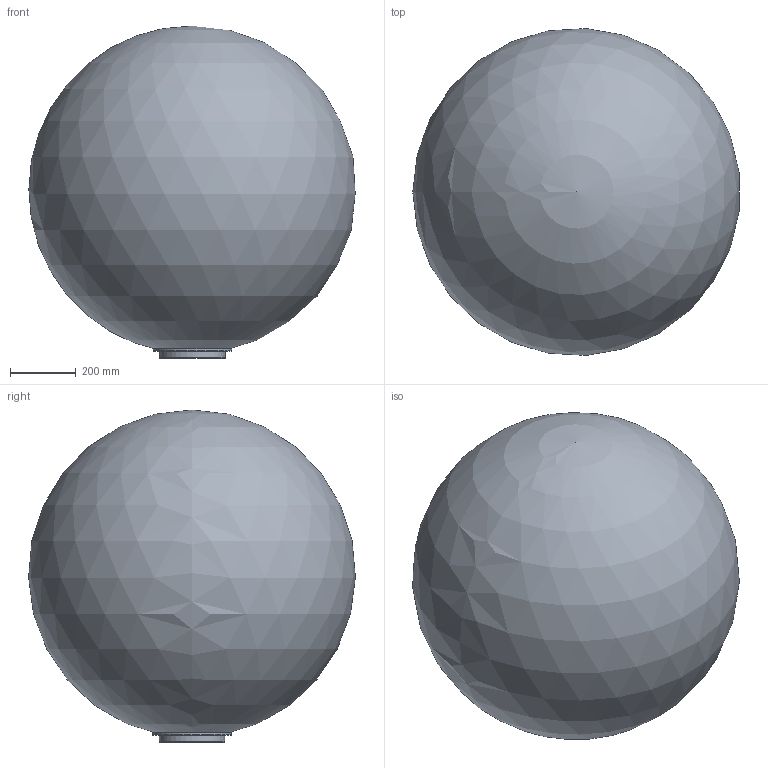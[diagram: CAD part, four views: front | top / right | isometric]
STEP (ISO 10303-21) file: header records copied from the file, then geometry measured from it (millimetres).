
FILE_DESCRIPTION(/* description */ (''),/* implementation_level */ '2;1');
FILE_NAME(/* name */ 'C:/Users/LukasGröber/GMS Cloud/Groeber Mannheim Lichtwerke - Dokumente/Marketing/Produkte/3D Daten/Kugel Sahara Stationär/Kugel Sahara 100 Stationär.step',/* time_stamp */ '2022-07-08T11:21:46+02:00',/* author */ (''),/* organization */ (''),/* preprocessor_version */ 'ST-DEVELOPER v19',/* originating_system */ 'Autodesk Translation Framework v11.7.0.108',/* authorisation */ '');
FILE_SCHEMA (('AUTOMOTIVE_DESIGN { 1 0 10303 214 3 1 1 }'));
Length unit declared in the file: millimetre
Products named in the file (3): Kugel Sahara 100 Stationär; Ring Stationär 80-100 (Modell); Kugel Sahara 1000 Öffnung 80
Assembly tree (2 placements, depth 2):
  Kugel Sahara 100 Stationär
    Ring Stationär 80-100 (Modell)
    Kugel Sahara 1000 Öffnung 80
Bounding box: 996.48 x 998.04 x 1013.83 mm (x, y, z)
Volume: 15535231.8 mm3; surface area: 6235824.8 mm2
Topology: 2 solids, 2 shells, 15 faces, 31 edges, 19 vertices
Faces by surface type: cylinder 4, cone 3, plane 3, torus 3, sphere 2
Full cylindrical faces by diameter (mm): 180 x1, 194 x1, 200 x1, 240 x1
Entity records: 500 total; most frequent: DIRECTION 91, CARTESIAN_POINT 68, ORIENTED_EDGE 58, AXIS2_PLACEMENT_3D 42, EDGE_CURVE 29, CIRCLE 22, VERTEX_POINT 19, EDGE_LOOP 18
